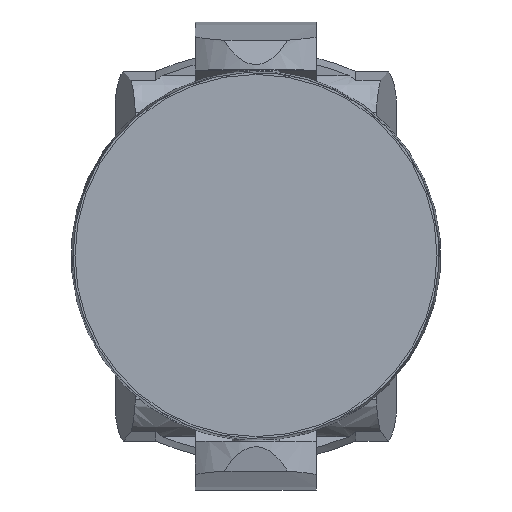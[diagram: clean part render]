
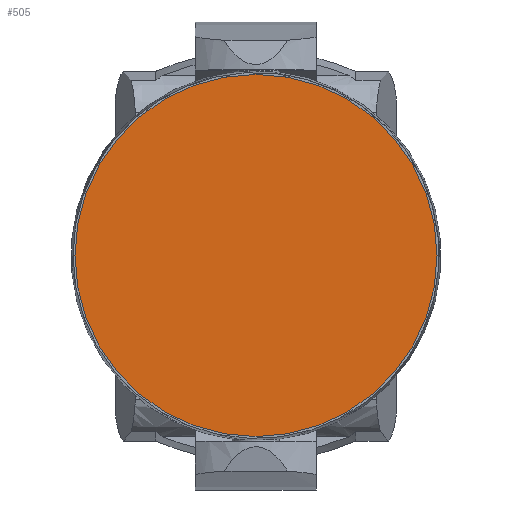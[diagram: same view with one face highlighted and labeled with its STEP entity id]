
A CAD part, top view. The second image highlights one B-rep face of the part: STEP entity #505.
In plain terms, the highlighted planar face has unit normal (0, 0, 1) as drawn and (-1, 0, 0) by its records, which use the part's own axes.
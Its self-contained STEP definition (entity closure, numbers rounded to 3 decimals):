
#505 = ADVANCED_FACE( '', ( #1001 ), #1002, .F. );
#1001 = FACE_OUTER_BOUND( '', #1504, .T. );
#1002 = PLANE( '', #1505 );
#1504 = EDGE_LOOP( '', ( #2630 ) );
#1505 = AXIS2_PLACEMENT_3D( '', #2631, #2632, #2633 );
#2630 = ORIENTED_EDGE( '', *, *, #3100, .F. );
#2631 = CARTESIAN_POINT( '', ( -59.1, 0., 295.871 ) );
#2632 = DIRECTION( '', ( 1., 0., 0. ) );
#2633 = DIRECTION( '', ( 0., 0., -1. ) );
#3100 = EDGE_CURVE( '', #3701, #3701, #3702, .T. );
#3701 = VERTEX_POINT( '', #4684 );
#3702 = CIRCLE( '', #4685, 133.405 );
#4684 = CARTESIAN_POINT( '', ( -59.1, -133.405, 295.871 ) );
#4685 = AXIS2_PLACEMENT_3D( '', #5810, #5811, #5812 );
#5810 = CARTESIAN_POINT( '', ( -59.1, 0., 295.871 ) );
#5811 = DIRECTION( '', ( 1., 0., 0. ) );
#5812 = DIRECTION( '', ( 0., -1., 0. ) );
